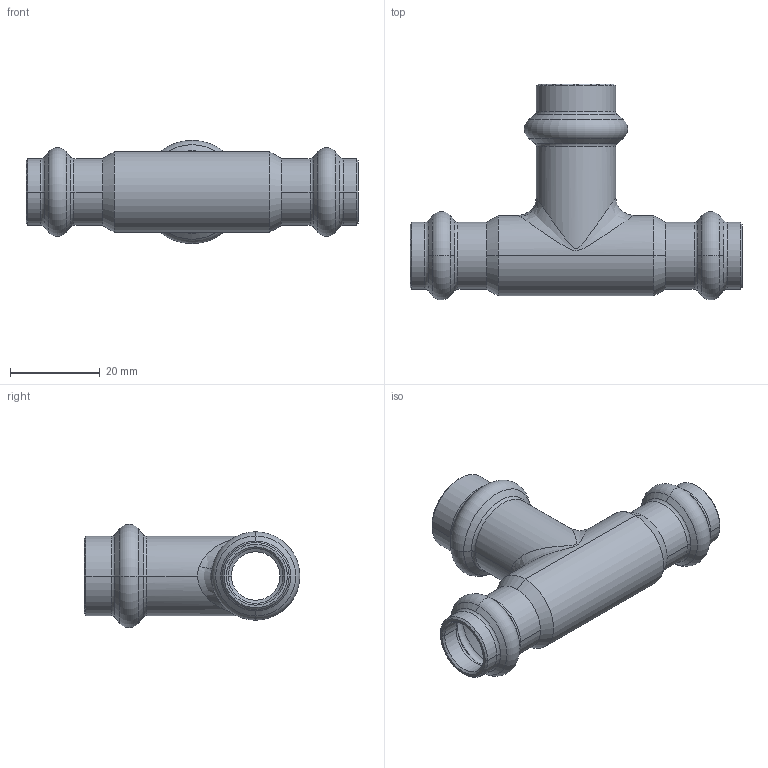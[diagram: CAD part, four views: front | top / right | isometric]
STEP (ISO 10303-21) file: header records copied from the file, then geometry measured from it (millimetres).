
FILE_DESCRIPTION (( 'STEP AP203' ), '1' );
FILE_NAME ('SP5130 Ø12-15-12.STEP', '2017-04-24T12:39:12', ( '' ), ( '' ), 'SwSTEP 2.0', 'SolidWorks 2016', '' );
FILE_SCHEMA (( 'CONFIG_CONTROL_DESIGN' ));
Length unit declared in the file: millimetre
Products named in the file (1): SP5130 Ø12-15-12
Bounding box: 74 x 48.1 x 23 mm (x, y, z)
Volume: 9225.5 mm3; surface area: 10886.6 mm2
Topology: 1 solids, 1 shells, 130 faces, 290 edges, 164 vertices
Faces by surface type: cone 48, torus 40, cylinder 34, bspline 4, plane 4
Entity records: 4947 total; most frequent: CARTESIAN_POINT 1881, DIRECTION 728, ORIENTED_EDGE 580, AXIS2_PLACEMENT_3D 323, EDGE_CURVE 290, CIRCLE 196, VERTEX_POINT 164, EDGE_LOOP 136
